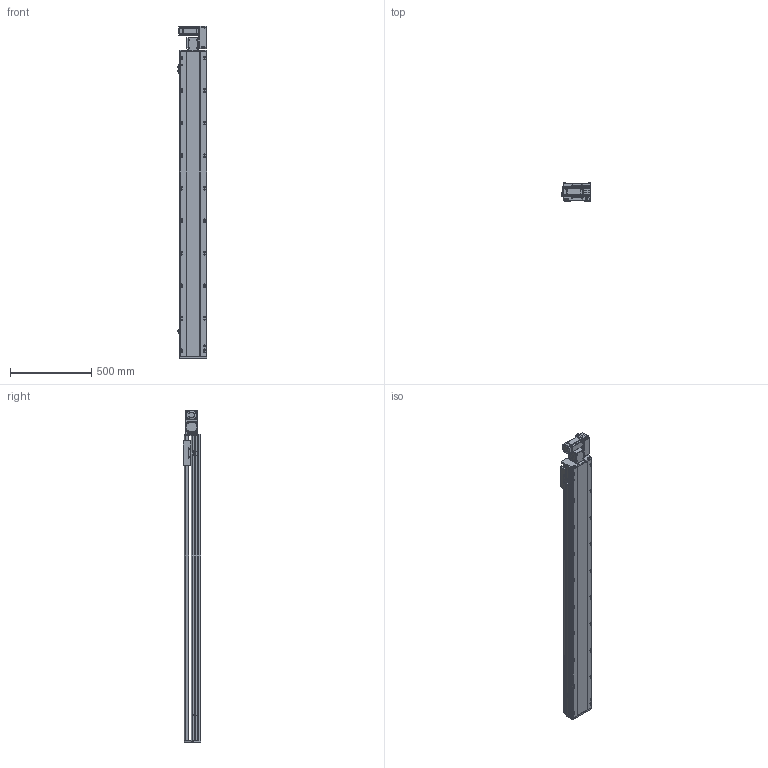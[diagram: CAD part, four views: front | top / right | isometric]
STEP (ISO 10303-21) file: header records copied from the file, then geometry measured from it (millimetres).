
FILE_DESCRIPTION (( 'STEP AP214' ), '1' );
FILE_NAME ('RTB17S-XX-1600-R-M40-C4.STEP', '2025-12-11T07:41:28', ( '' ), ( '' ), 'SwSTEP 2.0', 'SolidWorks 2018', '' );
FILE_SCHEMA (( 'AUTOMOTIVE_DESIGN' ));
Length unit declared in the file: millimetre
Products named in the file (14): RTB17S-L-014-T20--々湍釱^RTB17S-R-々湍釱蚾饜-400W_RTB17S-XX-XX-R-M40-C4; RTB17S-R-々湍釱蚾饜-400W^RTB17S-XX-XX-R-M40-C4; RTB14-L-017P^RTB17S-R-々湍釱蚾饜-400W_RTB17S-XX-XX-R-M40-C4; RTB17S-L-004佪裝蹟譫蟀諉釱^RTB17S-XX-XX-R-M40-C4; RTH13-BL-012覜茼え俋离^RTB17S-XX-XX-R-M40-C4; RTB14-L-005P--轴承塑胶压盖^RTB17S-R-皮带座装配-400W_RTB17S-XX-XX-R-M40-C4; RTB14-L-018P^RTB17S-R-々湍釱蚾饜-400W_RTB17S-XX-XX-R-M40-C4; OMRON EE-SX672 传感器^RTB17S-XX-XX-R-M40-C4; RTB17S-L-001耜醱啣^RTB17S-XX-XX-R-M40-C4; 400W侜督萇儂^RTB17S-XX-XX-R-M40-C4; RTB17-R-011菁釱^RTB17S-XX-XX-R-M40-C4; RTB14-L-008-M20--萇儂啣^RTB17S-R-々湍釱蚾饜-400W_RTB17S-XX-XX-R-M40-C4; RTB17S-L-007奻裔^RTB17S-XX-XX-R-M40-C4; RTB17S-XX-1600-R-M40-C4
Assembly tree (16 placements, depth 3):
  RTB17S-XX-1600-R-M40-C4
    RTB17-R-011菁釱^RTB17S-XX-XX-R-M40-C4
    RTB17S-L-007奻裔^RTB17S-XX-XX-R-M40-C4
    OMRON EE-SX672 传感器^RTB17S-XX-XX-R-M40-C4  x3
    RTB17S-L-001耜醱啣^RTB17S-XX-XX-R-M40-C4
    400W侜督萇儂^RTB17S-XX-XX-R-M40-C4
    RTB17S-L-004佪裝蹟譫蟀諉釱^RTB17S-XX-XX-R-M40-C4
    RTH13-BL-012覜茼え俋离^RTB17S-XX-XX-R-M40-C4
    RTB17S-R-々湍釱蚾饜-400W^RTB17S-XX-XX-R-M40-C4
      RTB17S-L-014-T20--々湍釱^RTB17S-R-々湍釱蚾饜-400W_RTB17S-XX-XX-R-M40-C4
      RTB14-L-005P--轴承塑胶压盖^RTB17S-R-皮带座装配-400W_RTB17S-XX-XX-R-M40-C4
      RTB14-L-008-M20--萇儂啣^RTB17S-R-々湍釱蚾饜-400W_RTB17S-XX-XX-R-M40-C4
      RTB14-L-017P^RTB17S-R-々湍釱蚾饜-400W_RTB17S-XX-XX-R-M40-C4  x2
      RTB14-L-018P^RTB17S-R-々湍釱蚾饜-400W_RTB17S-XX-XX-R-M40-C4
Bounding box: 183.5 x 108 x 2041 mm (x, y, z)
Volume: 17269930.2 mm3; surface area: 2030740.4 mm2
Topology: 15 solids, 15 shells, 2253 faces, 6249 edges, 4077 vertices
Faces by surface type: plane 1074, cylinder 731, bspline 301, cone 139, torus 8
Entity records: 64937 total; most frequent: CARTESIAN_POINT 18254, ORIENTED_EDGE 9342, DIRECTION 8666, EDGE_CURVE 4671, VERTEX_POINT 3065, AXIS2_PLACEMENT_3D 2995, LINE 2676, VECTOR 2676
